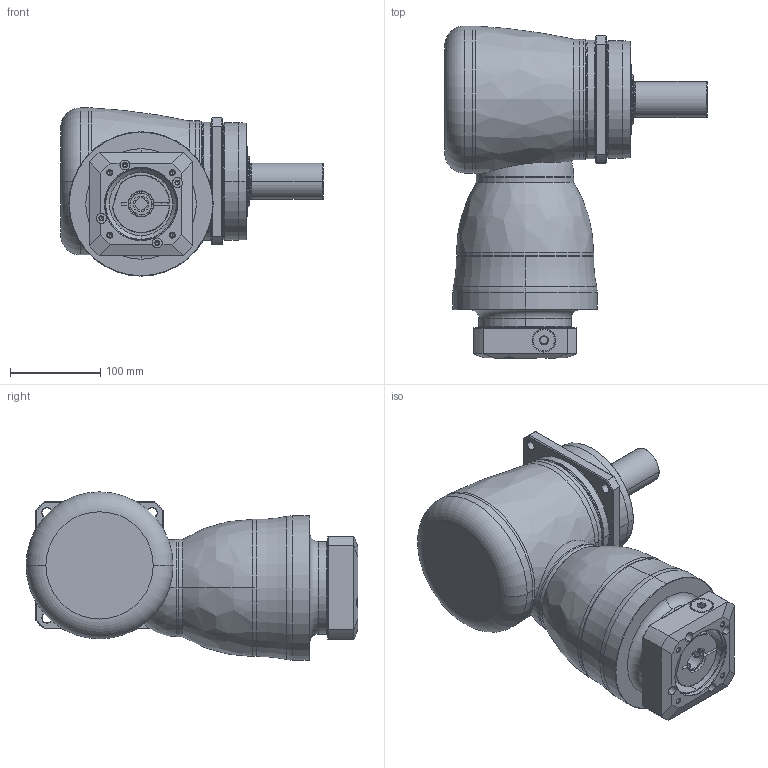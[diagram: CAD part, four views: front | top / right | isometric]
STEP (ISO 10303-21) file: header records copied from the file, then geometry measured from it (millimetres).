
FILE_DESCRIPTION((''),'2;1');
FILE_NAME('KF140_2ST_24-P0409500101_ASM','2016-06-27T',('d01943'),(''),'PRO/ENGINEER BY PARAMETRIC TECHNOLOGY CORPORATION, 2008410','PRO/ENGINEER BY PARAMETRIC TECHNOLOGY CORPORATION, 2008410','');
FILE_SCHEMA(('CONFIG_CONTROL_DESIGN'));
Length unit declared in the file: millimetre
Products named in the file (11): P1008500002; P1804500001; P0915500001; P1315500001; P1007500001; P1317500101; P0409500101; P0503500010; P0912401001; 21711418017; KF140_2ST_24-P0409500101_ASM
Assembly tree (10 placements, depth 2):
  KF140_2ST_24-P0409500101_ASM
    P1008500002
    P1804500001
    P0915500001
    P1315500001
    P1007500001
    P1317500101
    P0409500101
    P0503500010
    P0912401001
    21711418017
Bounding box: 291 x 368 x 186.5 mm (x, y, z)
Volume: 5029351.8 mm3; surface area: 525686.7 mm2
Topology: 11 solids, 11 shells, 464 faces, 1044 edges, 619 vertices
Faces by surface type: cylinder 158, cone 124, plane 97, torus 62, bspline 21, sphere 2
Entity records: 18147 total; most frequent: CARTESIAN_POINT 7497, DIRECTION 2365, ORIENTED_EDGE 2052, EDGE_CURVE 1026, AXIS2_PLACEMENT_3D 1002, VERTEX_POINT 619, CIRCLE 538, EDGE_LOOP 533
